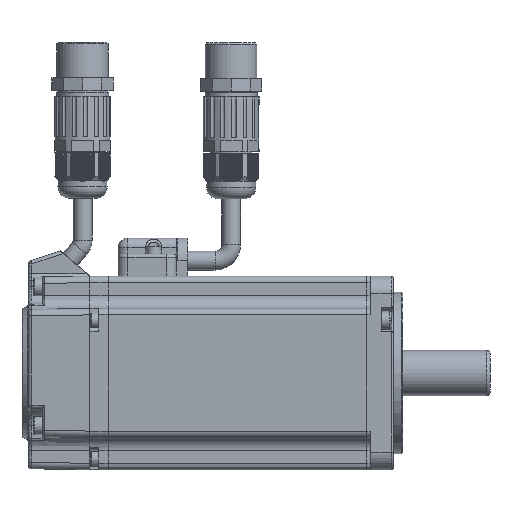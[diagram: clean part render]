
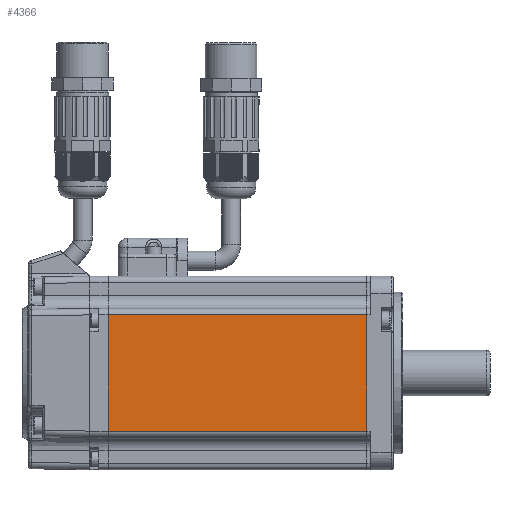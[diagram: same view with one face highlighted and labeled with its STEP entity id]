
A CAD part, left-side view. The second image highlights one B-rep face of the part: STEP entity #4366.
In plain terms, the highlighted planar face has unit normal (-1, 0, 0).
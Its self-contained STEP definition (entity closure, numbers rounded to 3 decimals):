
#2482=FACE_OUTER_BOUND('',#13911,.T.);
#4366=ADVANCED_FACE('',(#2482),#6500,.F.);
#6500=PLANE('',#36196);
#7929=LINE('',#48356,#10614);
#7941=LINE('',#48402,#10626);
#7942=LINE('',#48404,#10627);
#7968=LINE('',#48484,#10653);
#10614=VECTOR('',#39330,1.);
#10626=VECTOR('',#39372,1.);
#10627=VECTOR('',#39375,1.);
#10653=VECTOR('',#39469,1.);
#13911=EDGE_LOOP('',(#16445,#16446,#16447,#16448));
#16445=ORIENTED_EDGE('',*,*,#29983,.T.);
#16446=ORIENTED_EDGE('',*,*,#29959,.F.);
#16447=ORIENTED_EDGE('',*,*,#29982,.T.);
#16448=ORIENTED_EDGE('',*,*,#30021,.F.);
#26643=VERTEX_POINT('',#48355);
#26644=VERTEX_POINT('',#48357);
#26662=VERTEX_POINT('',#48401);
#26663=VERTEX_POINT('',#48405);
#29959=EDGE_CURVE('',#26643,#26644,#7929,.T.);
#29982=EDGE_CURVE('',#26643,#26662,#7941,.T.);
#29983=EDGE_CURVE('',#26663,#26644,#7942,.T.);
#30021=EDGE_CURVE('',#26663,#26662,#7968,.T.);
#36196=AXIS2_PLACEMENT_3D('',#48485,#39470,#39471);
#39330=DIRECTION('',(0.,0.,-1.));
#39372=DIRECTION('',(0.,1.,0.));
#39375=DIRECTION('',(0.,-1.,0.));
#39469=DIRECTION('',(0.,0.,1.));
#39470=DIRECTION('',(1.,0.,0.));
#39471=DIRECTION('',(0.,-1.,0.));
#48355=CARTESIAN_POINT('',(-115.303,95.19,32.521));
#48356=CARTESIAN_POINT('',(-115.303,95.19,14.521));
#48357=CARTESIAN_POINT('',(-115.303,95.19,-3.479));
#48401=CARTESIAN_POINT('',(-115.303,175.291,32.521));
#48402=CARTESIAN_POINT('',(-115.303,144.19,32.521));
#48404=CARTESIAN_POINT('',(-115.303,144.19,-3.479));
#48405=CARTESIAN_POINT('',(-115.303,175.291,-3.479));
#48484=CARTESIAN_POINT('',(-115.303,175.291,14.521));
#48485=CARTESIAN_POINT('',(-115.303,144.19,-15.479));
